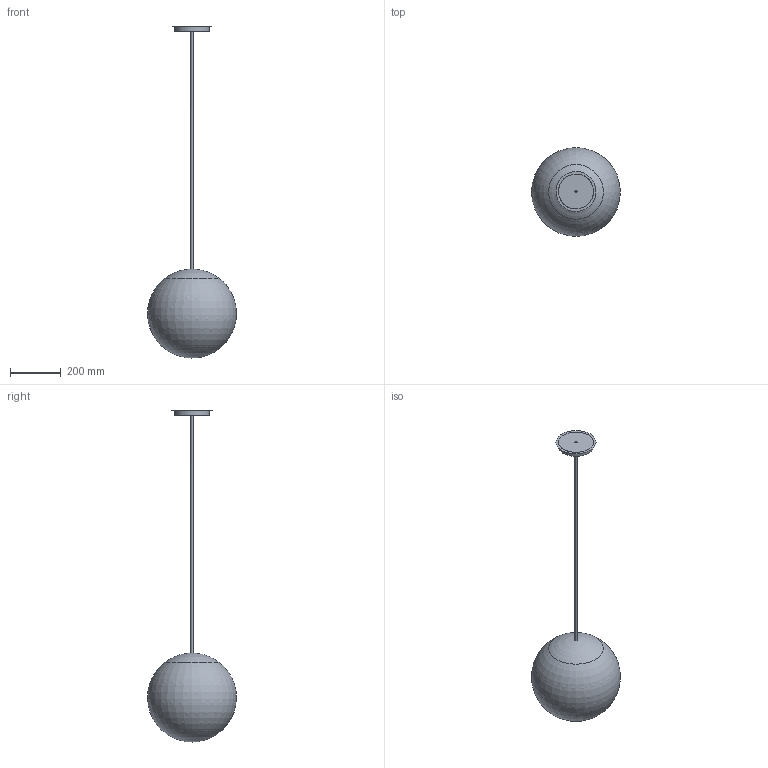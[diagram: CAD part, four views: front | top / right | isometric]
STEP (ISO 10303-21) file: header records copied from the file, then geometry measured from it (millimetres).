
FILE_DESCRIPTION(('STEP AP214'),'1');
FILE_NAME('Muna_350.stp','2018-12-19T00:27:47',(' '),(' '),'Spatial InterOp 3D',' ',' ');
FILE_SCHEMA(('AUTOMOTIVE_DESIGN { 1 0 10303 214 1 1 1 1 }'));
Length unit declared in the file: millimetre
Products named in the file (1): Bry_a
Bounding box: 349.96 x 349.92 x 1307.46 mm (x, y, z)
Volume: 67645888.7 mm3; surface area: 1306265.1 mm2
Topology: 5 solids, 8 shells, 16 faces, 46 edges, 36 vertices
Faces by surface type: bspline 14, sphere 2
Entity records: 5598 total; most frequent: CARTESIAN_POINT 5296, ORIENTED_EDGE 45, DIRECTION 32, EDGE_CURVE 28, VERTEX_POINT 28, EDGE_LOOP 23, B_SPLINE_CURVE_WITH_KNOTS 22, AXIS2_PLACEMENT_3D 16
